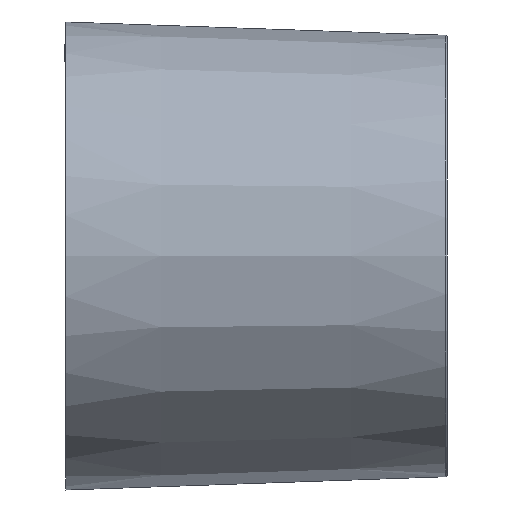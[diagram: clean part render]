
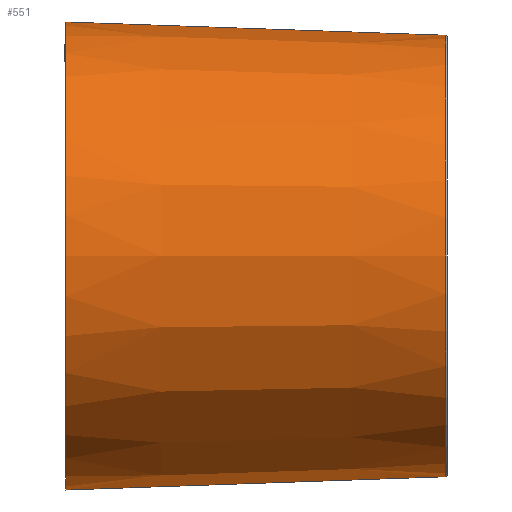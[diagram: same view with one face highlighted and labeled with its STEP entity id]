
A CAD part, left-side view. The second image highlights one B-rep face of the part: STEP entity #551.
In plain terms, the highlighted conical face has half-angle 2 degrees and reference radius 44.696 mm.
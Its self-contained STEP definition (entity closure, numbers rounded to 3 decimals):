
#71=CARTESIAN_POINT('',(0.,75.,0.));
#72=DIRECTION('',(0.,1.,0.));
#73=DIRECTION('',(0.,0.,-1.));
#74=AXIS2_PLACEMENT_3D('',#71,#72,#73);
#162=DIRECTION('',(0.,0.999,0.035));
#163=VECTOR('',#162,74.756);
#164=CARTESIAN_POINT('',(0.,0.29,43.391));
#165=LINE('',#164,#163);
#166=DIRECTION('',(0.,-0.999,0.035));
#167=VECTOR('',#166,74.756);
#168=CARTESIAN_POINT('',(0.,75.,-46.));
#169=LINE('',#168,#167);
#170=CARTESIAN_POINT('',(0.,0.29,0.));
#171=DIRECTION('',(0.,-1.,0.));
#172=DIRECTION('',(0.,0.,1.));
#173=AXIS2_PLACEMENT_3D('',#170,#171,#172);
#356=CARTESIAN_POINT('',(0.,75.,-46.));
#357=CARTESIAN_POINT('',(0.,75.,46.));
#358=VERTEX_POINT('',#356);
#359=VERTEX_POINT('',#357);
#382=CARTESIAN_POINT('',(0.,0.29,
-43.391));
#383=CARTESIAN_POINT('',(0.,0.29,43.391));
#384=VERTEX_POINT('',#382);
#385=VERTEX_POINT('',#383);
#539=CARTESIAN_POINT('',(0.,37.645,0.));
#540=DIRECTION('',(0.,1.,0.));
#541=DIRECTION('',(0.,0.,-1.));
#542=AXIS2_PLACEMENT_3D('',#539,#540,#541);
#543=CONICAL_SURFACE('',#542,44.696,2.);
#545=ORIENTED_EDGE('',*,*,#544,.T.);
#546=ORIENTED_EDGE('',*,*,#534,.F.);
#547=ORIENTED_EDGE('',*,*,#485,.T.);
#548=ORIENTED_EDGE('',*,*,#531,.F.);
#549=EDGE_LOOP('',(#545,#546,#547,#548));
#550=FACE_OUTER_BOUND('',#549,.F.);
#551=ADVANCED_FACE('',(#550),#543,.T.);
#75=CIRCLE('',#74,46.);
#174=CIRCLE('',#173,43.391);
#485=EDGE_CURVE('',#358,#359,#75,.T.);
#531=EDGE_CURVE('',#385,#359,#165,.T.);
#534=EDGE_CURVE('',#358,#384,#169,.T.);
#544=EDGE_CURVE('',#385,#384,#174,.T.);
